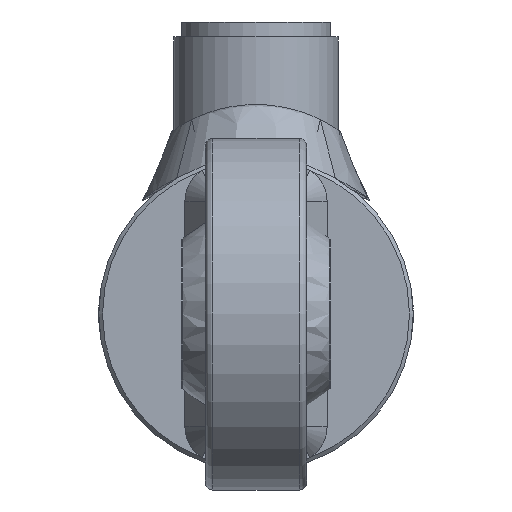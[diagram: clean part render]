
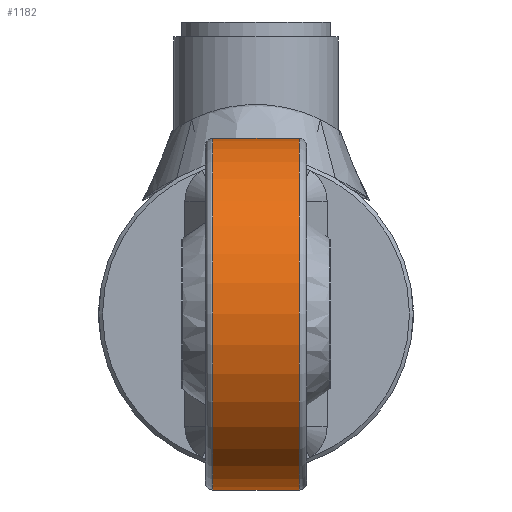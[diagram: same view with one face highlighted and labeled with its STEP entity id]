
A CAD part, left-side view. The second image highlights one B-rep face of the part: STEP entity #1182.
In plain terms, the highlighted cylindrical face has radius 23.5 mm (diameter 47 mm), a full revolution.
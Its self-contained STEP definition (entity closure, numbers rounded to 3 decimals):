
#1182 = ADVANCED_FACE( '', ( #2189, #2190, #2191 ), #2192, .T. );
#2189 = FACE_OUTER_BOUND( '', #4620, .T. );
#2190 = FACE_OUTER_BOUND( '', #4621, .T. );
#2191 = FACE_BOUND( '', #4622, .T. );
#2192 = CYLINDRICAL_SURFACE( '', #4623, 23.5 );
#4620 = EDGE_LOOP( '', ( #7654 ) );
#4621 = EDGE_LOOP( '', ( #7655 ) );
#4622 = EDGE_LOOP( '', ( #7656, #7657, #7658, #7659, #7660, #7661, #7662, #7663 ) );
#4623 = AXIS2_PLACEMENT_3D( '', #7664, #7665, #7666 );
#7654 = ORIENTED_EDGE( '', *, *, #8957, .T. );
#7655 = ORIENTED_EDGE( '', *, *, #9157, .T. );
#7656 = ORIENTED_EDGE( '', *, *, #8741, .F. );
#7657 = ORIENTED_EDGE( '', *, *, #9158, .T. );
#7658 = ORIENTED_EDGE( '', *, *, #9159, .F. );
#7659 = ORIENTED_EDGE( '', *, *, #9160, .T. );
#7660 = ORIENTED_EDGE( '', *, *, #8718, .F. );
#7661 = ORIENTED_EDGE( '', *, *, #8929, .T. );
#7662 = ORIENTED_EDGE( '', *, *, #9086, .F. );
#7663 = ORIENTED_EDGE( '', *, *, #9161, .T. );
#7664 = CARTESIAN_POINT( '', ( 60., -6.75, 0. ) );
#7665 = DIRECTION( '', ( 0., -1., 0. ) );
#7666 = DIRECTION( '', ( 0., 0., 1. ) );
#8718 = EDGE_CURVE( '', #9635, #9636, #9637, .T. );
#8741 = EDGE_CURVE( '', #9675, #9677, #9678, .T. );
#8929 = EDGE_CURVE( '', #9635, #9986, #9987, .T. );
#8957 = EDGE_CURVE( '', #10031, #10031, #10032, .T. );
#9086 = EDGE_CURVE( '', #10224, #9986, #10225, .T. );
#9157 = EDGE_CURVE( '', #10317, #10317, #10318, .F. );
#9158 = EDGE_CURVE( '', #9675, #10319, #10320, .T. );
#9159 = EDGE_CURVE( '', #10321, #10319, #10322, .F. );
#9160 = EDGE_CURVE( '', #10321, #9636, #10323, .T. );
#9161 = EDGE_CURVE( '', #10224, #9677, #10324, .T. );
#9635 = VERTEX_POINT( '', #10726 );
#9636 = VERTEX_POINT( '', #10727 );
#9637 = CIRCLE( '', #10728, 23.5 );
#9675 = VERTEX_POINT( '', #10796 );
#9677 = VERTEX_POINT( '', #10799 );
#9678 = CIRCLE( '', #10800, 23.5 );
#9986 = VERTEX_POINT( '', #11667 );
#9987 = B_SPLINE_CURVE_WITH_KNOTS( '', 3, ( #11668, #11669, #11670, #11671, #11672, #11673, #11674, #11675, #11676, #11677 ), .UNSPECIFIED., .F., .F., ( 4, 2, 2, 2, 4 ), ( 0., 0., 0.001, 0.001, 0.002 ), .UNSPECIFIED. );
#10031 = VERTEX_POINT( '', #11912 );
#10032 = CIRCLE( '', #11913, 23.5 );
#10224 = VERTEX_POINT( '', #12497 );
#10225 = LINE( '', #12498, #12499 );
#10317 = VERTEX_POINT( '', #12705 );
#10318 = CIRCLE( '', #12706, 23.5 );
#10319 = VERTEX_POINT( '', #12707 );
#10320 = B_SPLINE_CURVE_WITH_KNOTS( '', 3, ( #12708, #12709, #12710, #12711, #12712, #12713, #12714, #12715, #12716, #12717 ), .UNSPECIFIED., .F., .F., ( 4, 2, 2, 2, 4 ), ( 0., 0., 0.001, 0.001, 0.002 ), .UNSPECIFIED. );
#10321 = VERTEX_POINT( '', #12718 );
#10322 = LINE( '', #12719, #12720 );
#10323 = B_SPLINE_CURVE_WITH_KNOTS( '', 3, ( #12721, #12722, #12723, #12724, #12725, #12726, #12727, #12728, #12729, #12730, #12731, #12732 ), .UNSPECIFIED., .F., .F., ( 4, 2, 2, 2, 2, 4 ), ( 0., 0., 0.001, 0.001, 0.001, 0.002 ), .UNSPECIFIED. );
#10324 = B_SPLINE_CURVE_WITH_KNOTS( '', 3, ( #12733, #12734, #12735, #12736, #12737, #12738, #12739, #12740, #12741, #12742, #12743, #12744 ), .UNSPECIFIED., .F., .F., ( 4, 2, 2, 2, 2, 4 ), ( 0., 0., 0.001, 0.001, 0.001, 0.002 ), .UNSPECIFIED. );
#10726 = CARTESIAN_POINT( '', ( 41.91, 5.5, 15. ) );
#10727 = CARTESIAN_POINT( '', ( 41.91, 5.5, -15. ) );
#10728 = AXIS2_PLACEMENT_3D( '', #13623, #13624, #13625 );
#10796 = CARTESIAN_POINT( '', ( 41.91, -5.5, -15. ) );
#10799 = CARTESIAN_POINT( '', ( 41.91, -5.5, 15. ) );
#10800 = AXIS2_PLACEMENT_3D( '', #13649, #13650, #13651 );
#11667 = CARTESIAN_POINT( '', ( 42.788, 4.5, 16. ) );
#11668 = CARTESIAN_POINT( '', ( 41.91, 5.5, 15. ) );
#11669 = CARTESIAN_POINT( '', ( 42.008, 5.5, 15.118 ) );
#11670 = CARTESIAN_POINT( '', ( 42.106, 5.48, 15.234 ) );
#11671 = CARTESIAN_POINT( '', ( 42.298, 5.397, 15.457 ) );
#11672 = CARTESIAN_POINT( '', ( 42.391, 5.336, 15.563 ) );
#11673 = CARTESIAN_POINT( '', ( 42.562, 5.169, 15.754 ) );
#11674 = CARTESIAN_POINT( '', ( 42.64, 5.062, 15.839 ) );
#11675 = CARTESIAN_POINT( '', ( 42.754, 4.805, 15.963 ) );
#11676 = CARTESIAN_POINT( '', ( 42.788, 4.655, 16. ) );
#11677 = CARTESIAN_POINT( '', ( 42.788, 4.5, 16. ) );
#11912 = CARTESIAN_POINT( '', ( 60., -5.75, 23.5 ) );
#11913 = AXIS2_PLACEMENT_3D( '', #13855, #13856, #13857 );
#12497 = CARTESIAN_POINT( '', ( 42.788, -4.5, 16. ) );
#12498 = CARTESIAN_POINT( '', ( 42.788, -6.75, 16. ) );
#12499 = VECTOR( '', #13978, 1000. );
#12705 = CARTESIAN_POINT( '', ( 60., 5.75, 23.5 ) );
#12706 = AXIS2_PLACEMENT_3D( '', #14048, #14049, #14050 );
#12707 = CARTESIAN_POINT( '', ( 42.788, -4.5, -16. ) );
#12708 = CARTESIAN_POINT( '', ( 41.91, -5.5, -15. ) );
#12709 = CARTESIAN_POINT( '', ( 42.008, -5.5, -15.118 ) );
#12710 = CARTESIAN_POINT( '', ( 42.106, -5.48, -15.234 ) );
#12711 = CARTESIAN_POINT( '', ( 42.298, -5.397, -15.457 ) );
#12712 = CARTESIAN_POINT( '', ( 42.391, -5.336, -15.563 ) );
#12713 = CARTESIAN_POINT( '', ( 42.562, -5.169, -15.754 ) );
#12714 = CARTESIAN_POINT( '', ( 42.64, -5.062, -15.839 ) );
#12715 = CARTESIAN_POINT( '', ( 42.754, -4.805, -15.963 ) );
#12716 = CARTESIAN_POINT( '', ( 42.788, -4.655, -16. ) );
#12717 = CARTESIAN_POINT( '', ( 42.788, -4.5, -16. ) );
#12718 = CARTESIAN_POINT( '', ( 42.788, 4.5, -16. ) );
#12719 = CARTESIAN_POINT( '', ( 42.788, -6.75, -16. ) );
#12720 = VECTOR( '', #14051, 1000. );
#12721 = CARTESIAN_POINT( '', ( 42.788, 4.5, -16. ) );
#12722 = CARTESIAN_POINT( '', ( 42.788, 4.655, -16. ) );
#12723 = CARTESIAN_POINT( '', ( 42.754, 4.805, -15.963 ) );
#12724 = CARTESIAN_POINT( '', ( 42.669, 4.997, -15.87 ) );
#12725 = CARTESIAN_POINT( '', ( 42.635, 5.057, -15.833 ) );
#12726 = CARTESIAN_POINT( '', ( 42.561, 5.162, -15.752 ) );
#12727 = CARTESIAN_POINT( '', ( 42.521, 5.21, -15.707 ) );
#12728 = CARTESIAN_POINT( '', ( 42.392, 5.336, -15.563 ) );
#12729 = CARTESIAN_POINT( '', ( 42.299, 5.397, -15.458 ) );
#12730 = CARTESIAN_POINT( '', ( 42.107, 5.479, -15.235 ) );
#12731 = CARTESIAN_POINT( '', ( 42.008, 5.5, -15.118 ) );
#12732 = CARTESIAN_POINT( '', ( 41.91, 5.5, -15. ) );
#12733 = CARTESIAN_POINT( '', ( 42.788, -4.5, 16. ) );
#12734 = CARTESIAN_POINT( '', ( 42.788, -4.655, 16. ) );
#12735 = CARTESIAN_POINT( '', ( 42.754, -4.805, 15.963 ) );
#12736 = CARTESIAN_POINT( '', ( 42.669, -4.997, 15.87 ) );
#12737 = CARTESIAN_POINT( '', ( 42.635, -5.057, 15.833 ) );
#12738 = CARTESIAN_POINT( '', ( 42.561, -5.162, 15.752 ) );
#12739 = CARTESIAN_POINT( '', ( 42.521, -5.21, 15.707 ) );
#12740 = CARTESIAN_POINT( '', ( 42.392, -5.336, 15.563 ) );
#12741 = CARTESIAN_POINT( '', ( 42.299, -5.397, 15.458 ) );
#12742 = CARTESIAN_POINT( '', ( 42.107, -5.479, 15.235 ) );
#12743 = CARTESIAN_POINT( '', ( 42.008, -5.5, 15.118 ) );
#12744 = CARTESIAN_POINT( '', ( 41.91, -5.5, 15. ) );
#13623 = CARTESIAN_POINT( '', ( 60., 5.5, 0. ) );
#13624 = DIRECTION( '', ( 0., -1., 0. ) );
#13625 = DIRECTION( '', ( 0., 0., -1. ) );
#13649 = CARTESIAN_POINT( '', ( 60., -5.5, 0. ) );
#13650 = DIRECTION( '', ( 0., 1., 0. ) );
#13651 = DIRECTION( '', ( 0., 0., 1. ) );
#13855 = CARTESIAN_POINT( '', ( 60., -5.75, 0. ) );
#13856 = DIRECTION( '', ( 0., 1., 0. ) );
#13857 = DIRECTION( '', ( 0., 0., 1. ) );
#13978 = DIRECTION( '', ( 0., 1., 0. ) );
#14048 = CARTESIAN_POINT( '', ( 60., 5.75, 0. ) );
#14049 = DIRECTION( '', ( 0., 1., 0. ) );
#14050 = DIRECTION( '', ( 0., 0., 1. ) );
#14051 = DIRECTION( '', ( 0., 1., 0. ) );
